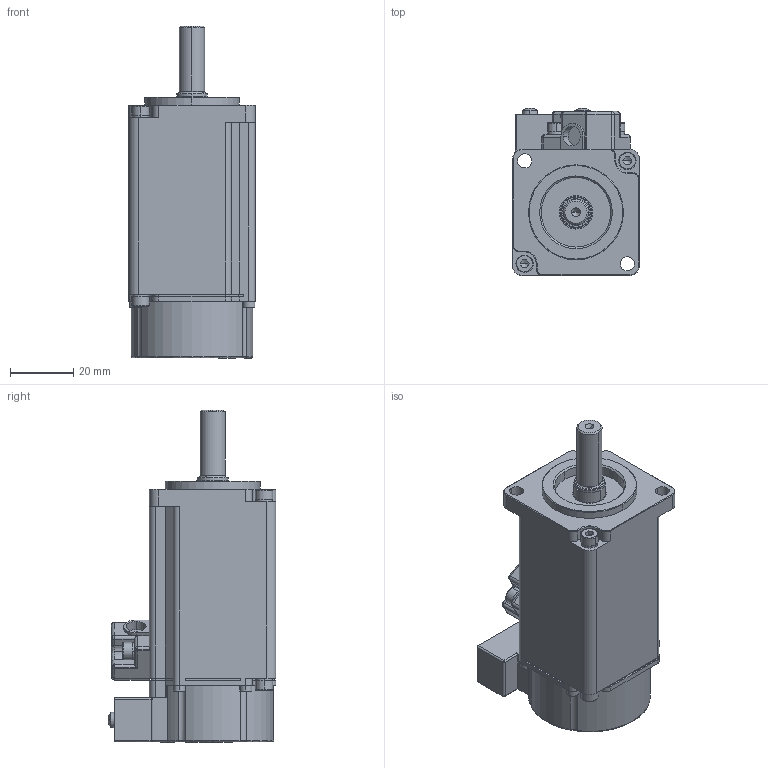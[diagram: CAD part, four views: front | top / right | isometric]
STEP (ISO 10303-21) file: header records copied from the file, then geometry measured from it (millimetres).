
FILE_DESCRIPTION (( 'STEP AP214' ), '1' );
FILE_NAME ('SME-L010.STEP', '2020-05-18T08:19:18', ( '' ), ( '' ), 'SwSTEP 2.0', 'SolidWorks 2016', '' );
FILE_SCHEMA (( 'AUTOMOTIVE_DESIGN' ));
Length unit declared in the file: millimetre
Products named in the file (1): SME-L010
Bounding box: 40 x 53.07 x 105 mm (x, y, z)
Volume: 43602.6 mm3; surface area: 32577.1 mm2
Topology: 25 solids, 25 shells, 813 faces, 2037 edges, 1257 vertices
Faces by surface type: plane 313, cylinder 283, cone 127, bspline 90
Entity records: 33723 total; most frequent: CARTESIAN_POINT 6998, DIRECTION 3992, ORIENTED_EDGE 3942, EDGE_CURVE 1971, AXIS2_PLACEMENT_3D 1526, VERTEX_POINT 1257, VECTOR 940, LINE 940
